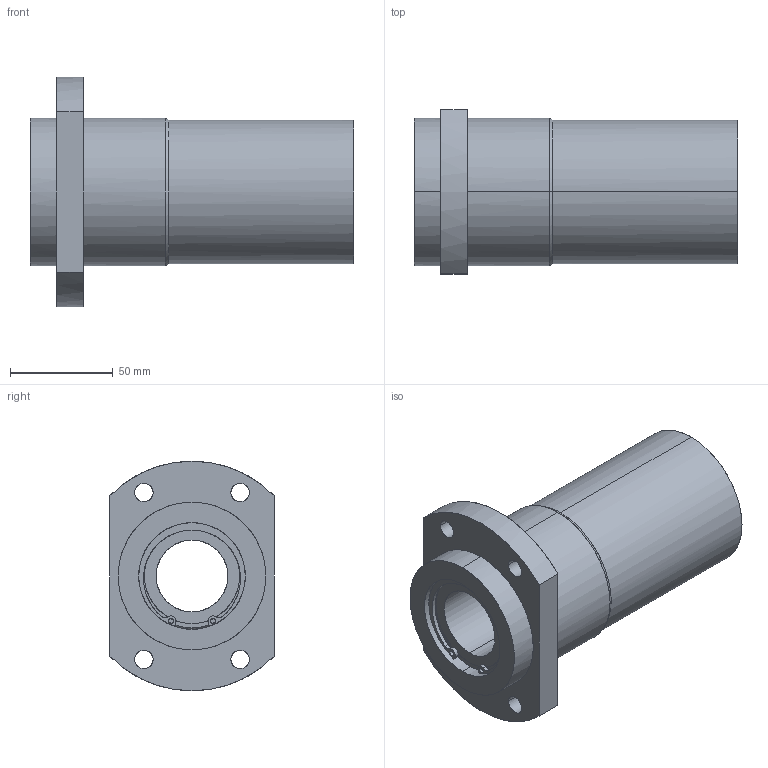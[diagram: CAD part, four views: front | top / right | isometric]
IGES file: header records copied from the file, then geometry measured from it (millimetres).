
Global section: file name: No Iges File Name specified; native system: AutoDesk Inventor R11.0; preprocessor: AutoDesk Inventor Iges Exporter R11.0; author: No Author specified; organization: No Organization specified; date: 20170922.133517; units: millimetre
Bounding box: 158 x 80 x 112 mm (x, y, z)
Surface area: 73314.4 mm2 (no closed solid volume)
Topology: 0 solids, 0 shells, 95 faces, 722 edges, 722 vertices
Faces by surface type: bspline 95
